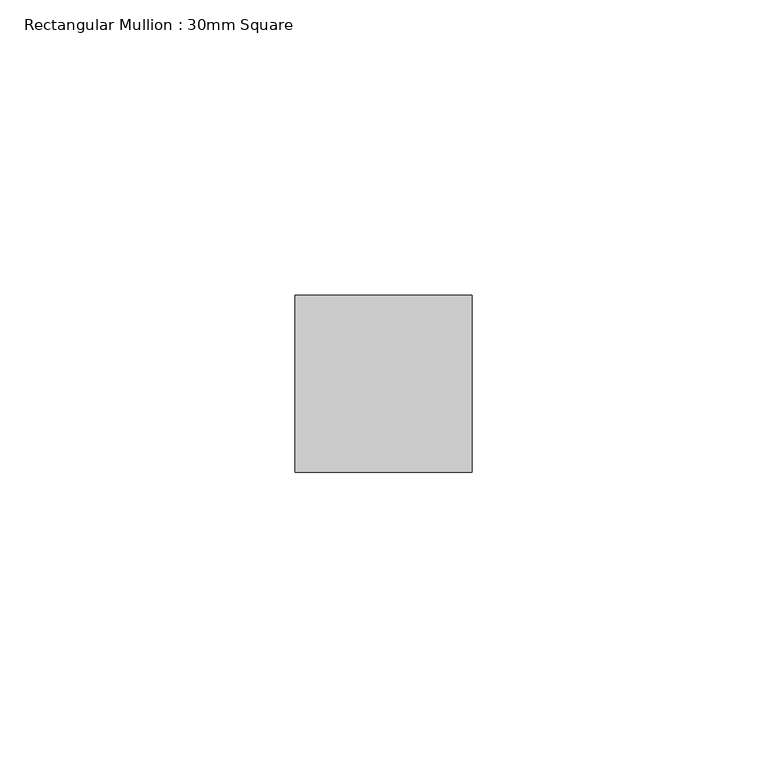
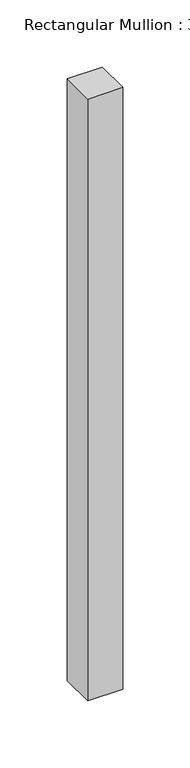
"""IFC4 building model written with IfcOpenShell, lengths in millimetres: member geometry, Rectangular Mullion : 30mm Square."""

from ifc_helpers import new_model, si_unit, frame, origin, place, context, project, spatial, polyline, outline, extrude, source, transform, mapped, element, save


def rectangular_mullion_30mm_square_a0bf7eaf(model_context):
    return source(origin(), model_context, "Body", "SweptSolid", [
        extrude(outline(polyline([(15.0, 15.0), (15.0, -15.0), (-15.0, -15.0), (-15.0, 15.0), (15.0, 15.0)])), frame((0.0, 0.0, -545.0), z_axis=(0.0, 0.0, 1.0), x_axis=(1.0, 0.0, 0.0)), (0.0, 0.0, 1.0), 545.0),
    ])


if __name__ == "__main__":
    model = new_model("IFC4")
    model_context = context("Model", 3, world=origin())
    ifc_project = project(units=[si_unit("LENGTHUNIT", "METRE", prefix="MILLI")], contexts=[model_context])
    site = spatial("IfcSite", under=ifc_project)
    building = spatial("IfcBuilding", under=site)
    placement = place(None, origin())
    rectangular_mullion_30mm_square_shape = rectangular_mullion_30mm_square_a0bf7eaf(model_context)
    element("IfcMember", 1, ObjectType="Rectangular Mullion : 30mm Square", at=placement, inside=building, context=model_context, shape_type="MappedRepresentation", body=[
        mapped(rectangular_mullion_30mm_square_shape, transform((0.0, 0.0, 0.0), x_axis=(1.0, 0.0, 0.0), y_axis=(0.0, 1.0, 0.0), z_axis=(0.0, 0.0, 1.0))),
    ])
    save(model, "model.ifc")
